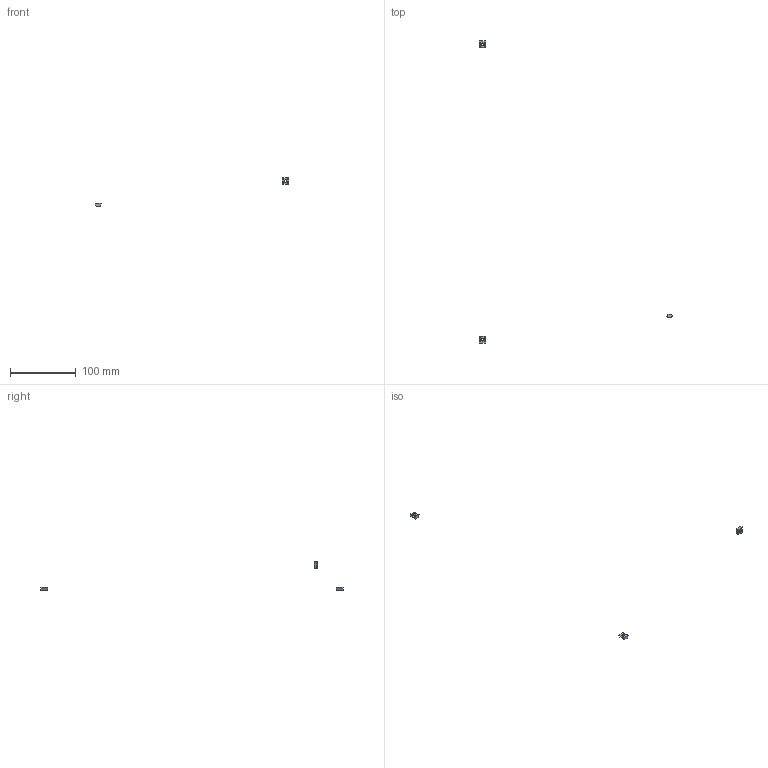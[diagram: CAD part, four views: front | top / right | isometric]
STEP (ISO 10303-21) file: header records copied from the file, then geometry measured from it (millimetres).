
FILE_DESCRIPTION(/* description */ (''),/* implementation_level */ '2;1');
FILE_NAME(/* name */ '10.optics-laser#10.2#HNTE5-4',/* time_stamp */ '2014-12-01T20:19:03+01:00',/* author */ (''),/* organization */ (''),/* preprocessor_version */ 'ST-DEVELOPER v14',/* originating_system */ '',/* authorisation */ '');
FILE_SCHEMA (('AUTOMOTIVE_DESIGN'));
Length unit declared in the file: millimetre
Products named in the file (2): Document; tslot nut, pre, M4
Assembly tree (3 placements, depth 2):
  Document
    tslot nut, pre, M4  x3
Bounding box: 295 x 459.6 x 43.44 mm (x, y, z)
Volume: 850.3 mm3; surface area: 1080.2 mm2
Topology: 3 solids, 3 shells, 36 faces, 90 edges, 60 vertices
Faces by surface type: plane 30, bspline 6
Entity records: 818 total; most frequent: CARTESIAN_POINT 332, B_SPLINE_CURVE_WITH_KNOTS 84, ORIENTED_EDGE 60, PCURVE 60, DEFINITIONAL_REPRESENTATION 60, SURFACE_CURVE 30, EDGE_CURVE 30, DIRECTION 22
